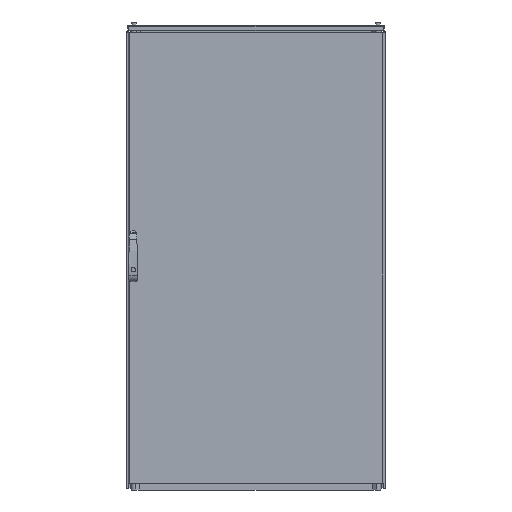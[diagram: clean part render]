
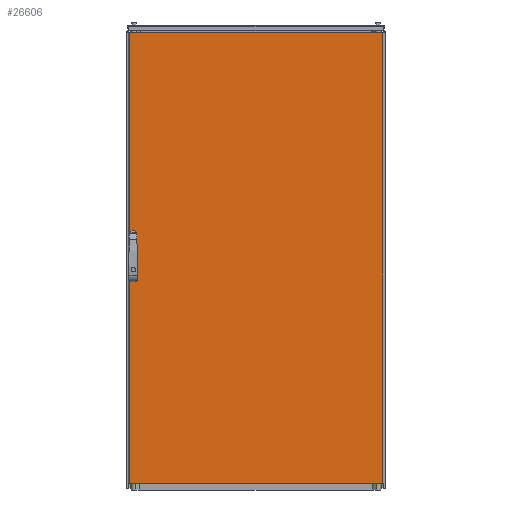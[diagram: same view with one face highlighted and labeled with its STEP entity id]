
A CAD part, front view. The second image highlights one B-rep face of the part: STEP entity #26606.
In plain terms, the highlighted planar face has unit normal (0, -1, 0).
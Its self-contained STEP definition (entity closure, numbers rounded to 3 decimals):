
#1440=CIRCLE('',#28716,9.5);
#1441=CIRCLE('',#28717,9.5);
#1442=CIRCLE('',#28718,9.5);
#1443=CIRCLE('',#28719,9.5);
#5936=ORIENTED_EDGE('',*,*,#11682,.T.);
#5937=ORIENTED_EDGE('',*,*,#11683,.T.);
#5938=ORIENTED_EDGE('',*,*,#11684,.T.);
#5939=ORIENTED_EDGE('',*,*,#11685,.T.);
#5940=ORIENTED_EDGE('',*,*,#11686,.T.);
#5941=ORIENTED_EDGE('',*,*,#11687,.T.);
#5942=ORIENTED_EDGE('',*,*,#11688,.T.);
#5943=ORIENTED_EDGE('',*,*,#11689,.T.);
#5944=ORIENTED_EDGE('',*,*,#11690,.T.);
#5945=ORIENTED_EDGE('',*,*,#11691,.T.);
#5946=ORIENTED_EDGE('',*,*,#11692,.T.);
#5947=ORIENTED_EDGE('',*,*,#11693,.T.);
#11682=EDGE_CURVE('',#14835,#14836,#17479,.T.);
#11683=EDGE_CURVE('',#14836,#14837,#17480,.F.);
#11684=EDGE_CURVE('',#14837,#14838,#17481,.F.);
#11685=EDGE_CURVE('',#14838,#14835,#17482,.T.);
#11686=EDGE_CURVE('',#14839,#14840,#1440,.T.);
#11687=EDGE_CURVE('',#14840,#14841,#17483,.T.);
#11688=EDGE_CURVE('',#14841,#14842,#1441,.T.);
#11689=EDGE_CURVE('',#14842,#14839,#17484,.T.);
#11690=EDGE_CURVE('',#14843,#14844,#1442,.T.);
#11691=EDGE_CURVE('',#14844,#14845,#17485,.T.);
#11692=EDGE_CURVE('',#14845,#14846,#1443,.T.);
#11693=EDGE_CURVE('',#14846,#14843,#17486,.T.);
#14835=VERTEX_POINT('',#42170);
#14836=VERTEX_POINT('',#42171);
#14837=VERTEX_POINT('',#42173);
#14838=VERTEX_POINT('',#42175);
#14839=VERTEX_POINT('',#42178);
#14840=VERTEX_POINT('',#42179);
#14841=VERTEX_POINT('',#42181);
#14842=VERTEX_POINT('',#42183);
#14843=VERTEX_POINT('',#42186);
#14844=VERTEX_POINT('',#42187);
#14845=VERTEX_POINT('',#42189);
#14846=VERTEX_POINT('',#42191);
#17479=LINE('',#42169,#19796);
#17480=LINE('',#42172,#19797);
#17481=LINE('',#42174,#19798);
#17482=LINE('',#42176,#19799);
#17483=LINE('',#42180,#19800);
#17484=LINE('',#42184,#19801);
#17485=LINE('',#42188,#19802);
#17486=LINE('',#42192,#19803);
#19796=VECTOR('',#34103,1000.);
#19797=VECTOR('',#34104,1000.);
#19798=VECTOR('',#34105,1000.);
#19799=VECTOR('',#34106,1000.);
#19800=VECTOR('',#34109,1000.);
#19801=VECTOR('',#34112,1000.);
#19802=VECTOR('',#34115,1000.);
#19803=VECTOR('',#34118,1000.);
#21653=EDGE_LOOP('',(#5936,#5937,#5938,#5939));
#21654=EDGE_LOOP('',(#5940,#5941,#5942,#5943));
#21655=EDGE_LOOP('',(#5944,#5945,#5946,#5947));
#23855=FACE_BOUND('',#21653,.T.);
#23856=FACE_BOUND('',#21654,.T.);
#23857=FACE_BOUND('',#21655,.T.);
#25612=PLANE('',#28715);
#26606=ADVANCED_FACE('',(#23855,#23856,#23857),#25612,.F.);
#28715=AXIS2_PLACEMENT_3D('',#42168,#34101,#34102);
#28716=AXIS2_PLACEMENT_3D('',#42177,#34107,#34108);
#28717=AXIS2_PLACEMENT_3D('',#42182,#34110,#34111);
#28718=AXIS2_PLACEMENT_3D('',#42185,#34113,#34114);
#28719=AXIS2_PLACEMENT_3D('',#42190,#34116,#34117);
#34101=DIRECTION('',(0.,1.,0.));
#34102=DIRECTION('',(0.,0.,1.));
#34103=DIRECTION('',(1.,0.,0.));
#34104=DIRECTION('',(0.,0.,-1.));
#34105=DIRECTION('',(1.,0.,0.));
#34106=DIRECTION('',(0.,0.,-1.));
#34107=DIRECTION('',(0.,1.,0.));
#34108=DIRECTION('',(1.,0.,0.));
#34109=DIRECTION('',(0.,0.,1.));
#34110=DIRECTION('',(0.,1.,0.));
#34111=DIRECTION('',(1.,0.,0.));
#34112=DIRECTION('',(0.,0.,-1.));
#34113=DIRECTION('',(0.,1.,0.));
#34114=DIRECTION('',(1.,0.,0.));
#34115=DIRECTION('',(0.,0.,1.));
#34116=DIRECTION('',(0.,1.,0.));
#34117=DIRECTION('',(1.,0.,0.));
#34118=DIRECTION('',(0.,0.,-1.));
#42168=CARTESIAN_POINT('',(-497.5,-19.,880.));
#42169=CARTESIAN_POINT('',(-497.5,-19.,-877.));
#42170=CARTESIAN_POINT('',(-494.5,-19.,-877.));
#42171=CARTESIAN_POINT('',(494.5,-19.,-877.));
#42172=CARTESIAN_POINT('',(494.5,-19.,880.));
#42173=CARTESIAN_POINT('',(494.5,-19.,877.));
#42174=CARTESIAN_POINT('',(-497.5,-19.,877.));
#42175=CARTESIAN_POINT('',(-494.5,-19.,877.));
#42176=CARTESIAN_POINT('',(-494.5,-19.,880.));
#42177=CARTESIAN_POINT('',(-478.3,-19.,32.25));
#42178=CARTESIAN_POINT('',(-468.8,-19.,32.25));
#42179=CARTESIAN_POINT('',(-487.8,-19.,32.25));
#42180=CARTESIAN_POINT('',(-487.8,-19.,32.25));
#42181=CARTESIAN_POINT('',(-487.8,-19.,80.25));
#42182=CARTESIAN_POINT('',(-478.3,-19.,80.25));
#42183=CARTESIAN_POINT('',(-468.8,-19.,80.25));
#42184=CARTESIAN_POINT('',(-468.8,-19.,80.25));
#42185=CARTESIAN_POINT('',(-478.3,-19.,-80.25));
#42186=CARTESIAN_POINT('',(-468.8,-19.,-80.25));
#42187=CARTESIAN_POINT('',(-487.8,-19.,-80.25));
#42188=CARTESIAN_POINT('',(-487.8,-19.,-80.25));
#42189=CARTESIAN_POINT('',(-487.8,-19.,-32.25));
#42190=CARTESIAN_POINT('',(-478.3,-19.,-32.25));
#42191=CARTESIAN_POINT('',(-468.8,-19.,-32.25));
#42192=CARTESIAN_POINT('',(-468.8,-19.,-32.25));
